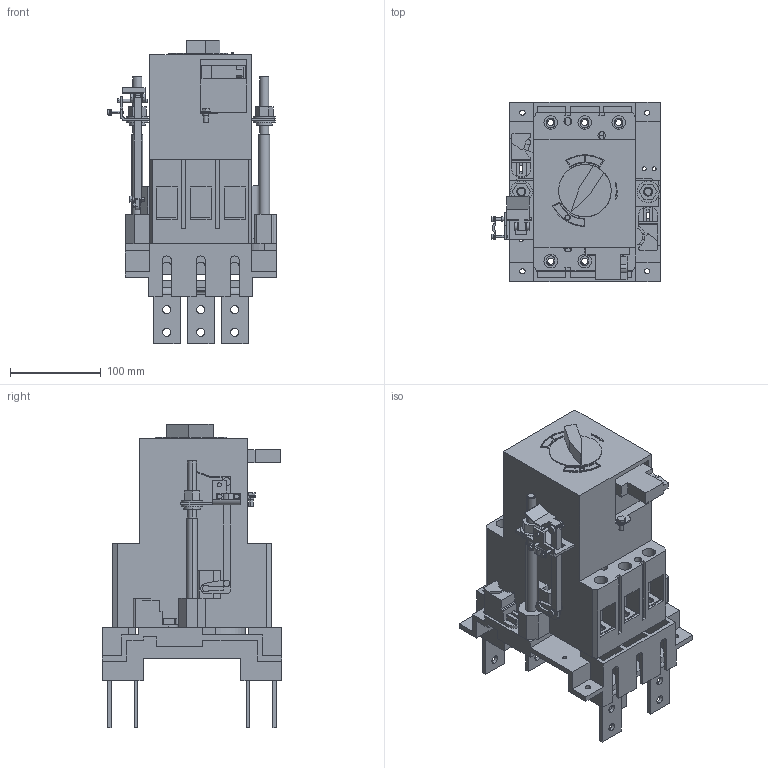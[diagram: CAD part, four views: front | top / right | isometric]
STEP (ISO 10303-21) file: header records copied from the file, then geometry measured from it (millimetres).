
FILE_DESCRIPTION (( 'STEP AP214' ), '1' );
FILE_NAME ('ÂÀ57-35 âûêëþ÷àòåëü è îñíîâàíèå 1.5.STEP', '2023-08-04T11:18:48', ( '' ), ( '' ), 'SwSTEP 2.0', 'SolidWorks 2018', '' );
FILE_SCHEMA (( 'AUTOMOTIVE_DESIGN' ));
Length unit declared in the file: millimetre
Products named in the file (1): ÂÀ57-35 âûêëþ÷àòåëü è îñíîâàíèå 1.5
Bounding box: 186.31 x 198 x 334.7 mm (x, y, z)
Volume: 4071925.7 mm3; surface area: 438338.5 mm2
Topology: 12 solids, 12 shells, 1045 faces, 2814 edges, 1840 vertices
Faces by surface type: plane 671, cylinder 370, torus 4
Entity records: 44617 total; most frequent: CARTESIAN_POINT 5736, DIRECTION 5687, ORIENTED_EDGE 5628, EDGE_CURVE 2814, VECTOR 2025, LINE 2025, VERTEX_POINT 1840, AXIS2_PLACEMENT_3D 1831
